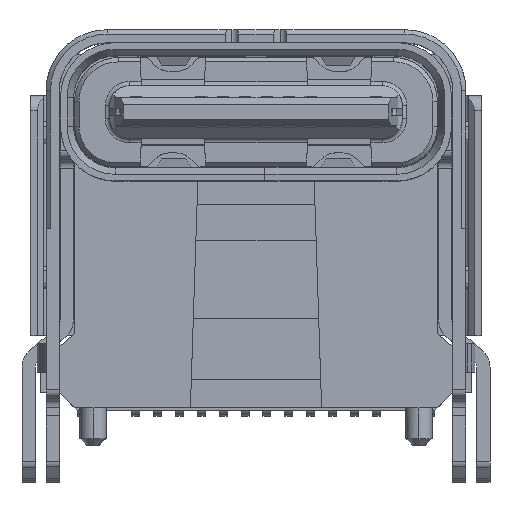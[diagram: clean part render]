
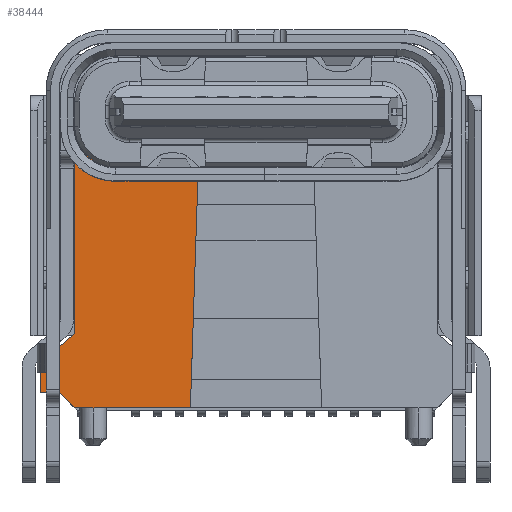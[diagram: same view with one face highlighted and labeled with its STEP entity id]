
A CAD part, top view. The second image highlights one B-rep face of the part: STEP entity #38444.
In plain terms, the highlighted planar face has unit normal (0, 0, 1).
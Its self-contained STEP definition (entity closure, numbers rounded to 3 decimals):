
#18 = ORIENTED_EDGE ( 'NONE', *, *, #25635, .F. ) ;
#1289 = CARTESIAN_POINT ( 'NONE',  ( -64.645, 9.26, -17.065 ) ) ;
#1991 = VERTEX_POINT ( 'NONE', #24002 ) ;
#2139 = VERTEX_POINT ( 'NONE', #45900 ) ;
#2182 = VERTEX_POINT ( 'NONE', #20309 ) ;
#2672 = LINE ( 'NONE', #58261, #45772 ) ;
#2721 = CARTESIAN_POINT ( 'NONE',  ( -63.9, 8.357, -17.065 ) ) ;
#2895 = VECTOR ( 'NONE', #45963, 1000. ) ;
#3023 = VECTOR ( 'NONE', #59165, 1000. ) ;
#3401 = DIRECTION ( 'NONE',  ( 0., -1., 0. ) ) ;
#3417 = CARTESIAN_POINT ( 'NONE',  ( -63.4, 8.01, -17.065 ) ) ;
#3550 = CARTESIAN_POINT ( 'NONE',  ( -65.428, 3.852, -17.065 ) ) ;
#4367 = VERTEX_POINT ( 'NONE', #2721 ) ;
#5371 = VECTOR ( 'NONE', #37881, 1000. ) ;
#5684 = ORIENTED_EDGE ( 'NONE', *, *, #51399, .F. ) ;
#8454 = ORIENTED_EDGE ( 'NONE', *, *, #51809, .F. ) ;
#8884 = ORIENTED_EDGE ( 'NONE', *, *, #31214, .F. ) ;
#8966 = ORIENTED_EDGE ( 'NONE', *, *, #21554, .F. ) ;
#10507 = CARTESIAN_POINT ( 'NONE',  ( -65.143, 2.63, -17.065 ) ) ;
#11488 = LINE ( 'NONE', #15184, #57714 ) ;
#14339 = DIRECTION ( 'NONE',  ( 0., -1., 0. ) ) ;
#15184 = CARTESIAN_POINT ( 'NONE',  ( -64.64, 2.83, -17.065 ) ) ;
#15723 = VECTOR ( 'NONE', #14339, 1000. ) ;
#16285 = VERTEX_POINT ( 'NONE', #51294 ) ;
#16715 = VECTOR ( 'NONE', #3401, 1000. ) ;
#16975 = VECTOR ( 'NONE', #26077, 1000. ) ;
#18013 = ORIENTED_EDGE ( 'NONE', *, *, #21196, .F. ) ;
#18205 = LINE ( 'NONE', #64680, #18944 ) ;
#18944 = VECTOR ( 'NONE', #33340, 1000. ) ;
#19008 = CARTESIAN_POINT ( 'NONE',  ( -62.024, 8.01, -17.065 ) ) ;
#19382 = DIRECTION ( 'NONE',  ( 0., -1., 0. ) ) ;
#19613 = ORIENTED_EDGE ( 'NONE', *, *, #44110, .F. ) ;
#20309 = CARTESIAN_POINT ( 'NONE',  ( -62., 2.839, -17.065 ) ) ;
#20427 = AXIS2_PLACEMENT_3D ( 'NONE', #10507, #66078, #30350 ) ;
#20620 = DIRECTION ( 'NONE',  ( -1., 0., 0. ) ) ;
#20729 = ORIENTED_EDGE ( 'NONE', *, *, #24212, .F. ) ;
#20874 = ORIENTED_EDGE ( 'NONE', *, *, #24613, .T. ) ;
#21196 = EDGE_CURVE ( 'NONE', #24966, #32326, #2672, .T. ) ;
#21521 = ORIENTED_EDGE ( 'NONE', *, *, #64187, .F. ) ;
#21554 = EDGE_CURVE ( 'NONE', #36328, #2139, #24392, .T. ) ;
#24002 = CARTESIAN_POINT ( 'NONE',  ( -65.428, 3.852, -17.065 ) ) ;
#24212 = EDGE_CURVE ( 'NONE', #49740, #40869, #35178, .T. ) ;
#24392 = LINE ( 'NONE', #19008, #40433 ) ;
#24398 = CARTESIAN_POINT ( 'NONE',  ( -64.645, 9.26, -17.065 ) ) ;
#24613 = EDGE_CURVE ( 'NONE', #40286, #32394, #39934, .T. ) ;
#24966 = VERTEX_POINT ( 'NONE', #49930 ) ;
#25635 = EDGE_CURVE ( 'NONE', #1991, #32394, #38622, .T. ) ;
#26077 = DIRECTION ( 'NONE',  ( -0.033, -0.999, 0. ) ) ;
#26845 = ORIENTED_EDGE ( 'NONE', *, *, #45218, .F. ) ;
#28740 = VECTOR ( 'NONE', #20620, 1000. ) ;
#29711 = VECTOR ( 'NONE', #59956, 1000. ) ;
#30350 = DIRECTION ( 'NONE',  ( -1., 0., 0. ) ) ;
#30414 = CARTESIAN_POINT ( 'NONE',  ( -64.569, 8.838, -17.065 ) ) ;
#30417 = CARTESIAN_POINT ( 'NONE',  ( -64.645, 4.528, -17.065 ) ) ;
#30681 = CARTESIAN_POINT ( 'NONE',  ( -64.99, 3.18, -17.065 ) ) ;
#30705 = LINE ( 'NONE', #36763, #28740 ) ;
#31140 = LINE ( 'NONE', #46310, #16975 ) ;
#31214 = EDGE_CURVE ( 'NONE', #4367, #24966, #65038, .T. ) ;
#31422 = CARTESIAN_POINT ( 'NONE',  ( -65.428, 3.18, -17.065 ) ) ;
#31894 = EDGE_CURVE ( 'NONE', #2182, #49740, #54467, .T. ) ;
#32326 = VERTEX_POINT ( 'NONE', #40203 ) ;
#32394 = VERTEX_POINT ( 'NONE', #30417 ) ;
#33340 = DIRECTION ( 'NONE',  ( -0.033, -0.999, 0. ) ) ;
#33743 = VERTEX_POINT ( 'NONE', #30681 ) ;
#34049 = CARTESIAN_POINT ( 'NONE',  ( -63.9, 2.63, -17.065 ) ) ;
#34885 = CARTESIAN_POINT ( 'NONE',  ( -62., 2.63, -17.065 ) ) ;
#35178 = LINE ( 'NONE', #59804, #2895 ) ;
#36328 = VERTEX_POINT ( 'NONE', #52809 ) ;
#36763 = CARTESIAN_POINT ( 'NONE',  ( -57.057, 8.16, -17.065 ) ) ;
#37881 = DIRECTION ( 'NONE',  ( -1., 0., 0. ) ) ;
#38444 = ADVANCED_FACE ( 'NONE', ( #61378 ), #55967, .F. ) ;
#38622 = LINE ( 'NONE', #3550, #3023 ) ;
#39934 = LINE ( 'NONE', #60481, #64249 ) ;
#40201 = CARTESIAN_POINT ( 'NONE',  ( -64.108, 8.397, -17.065 ) ) ;
#40203 = CARTESIAN_POINT ( 'NONE',  ( -61.82, 8.339, -17.065 ) ) ;
#40286 = VERTEX_POINT ( 'NONE', #1289 ) ;
#40433 = VECTOR ( 'NONE', #60111, 1000. ) ;
#40869 = VERTEX_POINT ( 'NONE', #44499 ) ;
#41452 = DIRECTION ( 'NONE',  ( -0.707, 0.707, 0. ) ) ;
#43383 = EDGE_CURVE ( 'NONE', #40286, #4367, #52112, .T. ) ;
#43775 = DIRECTION ( 'NONE',  ( 1., 0., 0. ) ) ;
#43920 = EDGE_CURVE ( 'NONE', #40869, #33743, #11488, .T. ) ;
#44110 = EDGE_CURVE ( 'NONE', #44641, #1991, #50502, .T. ) ;
#44489 = DIRECTION ( 'NONE',  ( 0., -1., 0. ) ) ;
#44499 = CARTESIAN_POINT ( 'NONE',  ( -64.64, 2.83, -17.065 ) ) ;
#44641 = VERTEX_POINT ( 'NONE', #31422 ) ;
#45172 = LINE ( 'NONE', #3417, #50524 ) ;
#45218 = EDGE_CURVE ( 'NONE', #2139, #2182, #18205, .T. ) ;
#45772 = VECTOR ( 'NONE', #43775, 1000. ) ;
#45900 = CARTESIAN_POINT ( 'NONE',  ( -61.831, 8.01, -17.065 ) ) ;
#45963 = DIRECTION ( 'NONE',  ( -1., 0., 0. ) ) ;
#46310 = CARTESIAN_POINT ( 'NONE',  ( -61.82, 8.339, -17.065 ) ) ;
#47178 = EDGE_CURVE ( 'NONE', #32326, #47792, #31140, .T. ) ;
#47647 = ORIENTED_EDGE ( 'NONE', *, *, #43920, .F. ) ;
#47792 = VERTEX_POINT ( 'NONE', #66637 ) ;
#49740 = VERTEX_POINT ( 'NONE', #61581 ) ;
#49930 = CARTESIAN_POINT ( 'NONE',  ( -63.9, 8.339, -17.065 ) ) ;
#50502 = LINE ( 'NONE', #64672, #29711 ) ;
#50524 = VECTOR ( 'NONE', #44489, 1000. ) ;
#51294 = CARTESIAN_POINT ( 'NONE',  ( -63.4, 8.16, -17.065 ) ) ;
#51399 = EDGE_CURVE ( 'NONE', #33743, #44641, #54036, .T. ) ;
#51809 = EDGE_CURVE ( 'NONE', #16285, #36328, #45172, .T. ) ;
#52112 = B_SPLINE_CURVE_WITH_KNOTS ( 'NONE', 3,
 ( #24398, #65157, #30414, #65816, #40201, #60761 ),
 .UNSPECIFIED., .F., .F.,
 ( 4, 2, 4 ),
 ( 0., 0.5, 1. ),
 .UNSPECIFIED. ) ;
#52809 = CARTESIAN_POINT ( 'NONE',  ( -63.4, 8.01, -17.065 ) ) ;
#53034 = CARTESIAN_POINT ( 'NONE',  ( -65.143, 3.18, -17.065 ) ) ;
#54036 = LINE ( 'NONE', #53034, #5371 ) ;
#54467 = LINE ( 'NONE', #34885, #15723 ) ;
#55967 = PLANE ( 'NONE',  #20427 ) ;
#57714 = VECTOR ( 'NONE', #41452, 1000. ) ;
#58261 = CARTESIAN_POINT ( 'NONE',  ( -65.143, 8.339, -17.065 ) ) ;
#58502 = ORIENTED_EDGE ( 'NONE', *, *, #43383, .F. ) ;
#59165 = DIRECTION ( 'NONE',  ( 0.757, 0.654, 0. ) ) ;
#59804 = CARTESIAN_POINT ( 'NONE',  ( -65.143, 2.83, -17.065 ) ) ;
#59956 = DIRECTION ( 'NONE',  ( 0., 1., 0. ) ) ;
#60111 = DIRECTION ( 'NONE',  ( 1., 0., 0. ) ) ;
#60481 = CARTESIAN_POINT ( 'NONE',  ( -64.645, 9.815, -17.065 ) ) ;
#60761 = CARTESIAN_POINT ( 'NONE',  ( -63.9, 8.357, -17.065 ) ) ;
#61378 = FACE_OUTER_BOUND ( 'NONE', #65489, .T. ) ;
#61581 = CARTESIAN_POINT ( 'NONE',  ( -62., 2.83, -17.065 ) ) ;
#61771 = ORIENTED_EDGE ( 'NONE', *, *, #47178, .F. ) ;
#63632 = ORIENTED_EDGE ( 'NONE', *, *, #31894, .F. ) ;
#64187 = EDGE_CURVE ( 'NONE', #47792, #16285, #30705, .T. ) ;
#64249 = VECTOR ( 'NONE', #19382, 1000. ) ;
#64672 = CARTESIAN_POINT ( 'NONE',  ( -65.428, 2.63, -17.065 ) ) ;
#64680 = CARTESIAN_POINT ( 'NONE',  ( -61.82, 8.339, -17.065 ) ) ;
#65038 = LINE ( 'NONE', #34049, #16715 ) ;
#65157 = CARTESIAN_POINT ( 'NONE',  ( -64.645, 9.048, -17.065 ) ) ;
#65489 = EDGE_LOOP ( 'NONE', ( #8966, #8454, #21521, #61771, #18013, #8884, #58502, #20874, #18, #19613, #5684, #47647, #20729, #63632, #26845 ) ) ;
#65816 = CARTESIAN_POINT ( 'NONE',  ( -64.3, 8.511, -17.065 ) ) ;
#66078 = DIRECTION ( 'NONE',  ( 0., 0., -1. ) ) ;
#66637 = CARTESIAN_POINT ( 'NONE',  ( -61.826, 8.16, -17.065 ) ) ;
